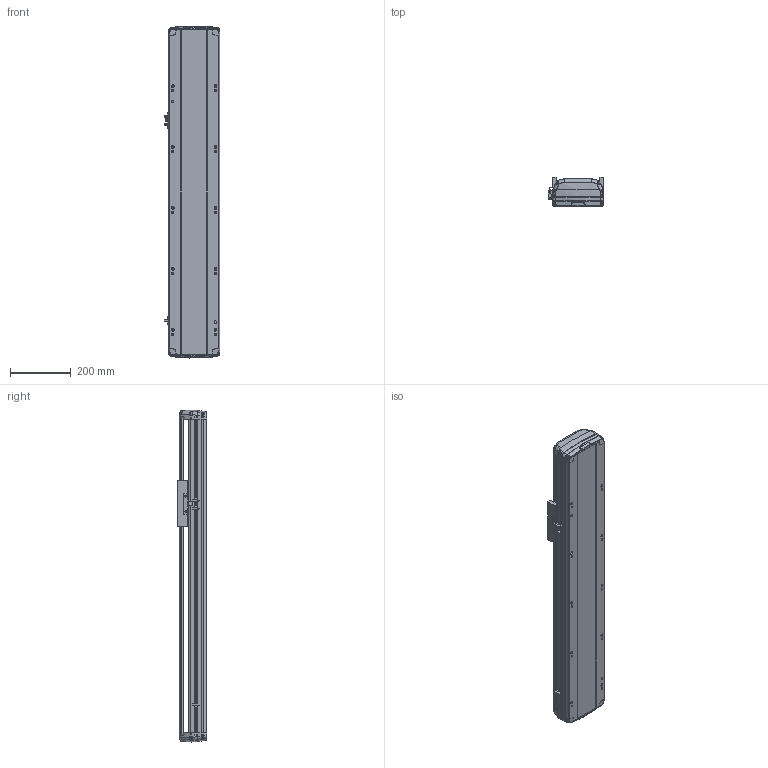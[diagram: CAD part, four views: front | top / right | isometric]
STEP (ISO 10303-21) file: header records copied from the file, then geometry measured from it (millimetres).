
FILE_DESCRIPTION (( 'STEP AP214' ), '1' );
FILE_NAME ('RTH17-XX-650-B-M40B-C4.STEP', '2025-10-24T09:16:05', ( '' ), ( '' ), 'SwSTEP 2.0', 'SolidWorks 2018', '' );
FILE_SCHEMA (( 'AUTOMOTIVE_DESIGN' ));
Length unit declared in the file: millimetre
Products named in the file (7): RTH17-XX-650-B-M40B-C4; N_RTH-L-012 感应片(外置)^RTH17-XX-XX-B-M40B-C4（方程式）; N_OMRON EE-SX672 換覜ん^RTH17-XX-XX-B-M40B-C4ㄗ源最宒ㄘ; N_RTH17-GY-001P^RTH17-XX-XX-B-M40B-C4（方程式）; N_RTH17-M-007B上盖^RTH17-XX-XX-B-M40B-C4（方程式）; N_RTH17-M-011B底座^RTH17-XX-XX-B-M40B-C4（方程式）; N_RTH17-E-004丝杆螺母连接座^RTH17-XX-XX-B-M40B-C4（方程式）
Assembly tree (9 placements, depth 2):
  RTH17-XX-650-B-M40B-C4
    N_RTH17-M-011B底座^RTH17-XX-XX-B-M40B-C4（方程式）
    N_RTH17-M-007B上盖^RTH17-XX-XX-B-M40B-C4（方程式）
    N_OMRON EE-SX672 換覜ん^RTH17-XX-XX-B-M40B-C4ㄗ源最宒ㄘ  x3
    N_RTH-L-012 感应片(外置)^RTH17-XX-XX-B-M40B-C4（方程式）
    N_RTH17-E-004丝杆螺母连接座^RTH17-XX-XX-B-M40B-C4（方程式）
    N_RTH17-GY-001P^RTH17-XX-XX-B-M40B-C4（方程式）  x2
Bounding box: 183.5 x 97 x 1089.88 mm (x, y, z)
Volume: 8048792.8 mm3; surface area: 1125471.9 mm2
Topology: 7 solids, 11 shells, 1720 faces, 4826 edges, 3134 vertices
Faces by surface type: plane 809, cylinder 445, bspline 420, cone 28, torus 18
Entity records: 40278 total; most frequent: CARTESIAN_POINT 16789, ORIENTED_EDGE 5156, DIRECTION 4066, EDGE_CURVE 2582, VERTEX_POINT 1688, VECTOR 1418, LINE 1418, AXIS2_PLACEMENT_3D 1324
